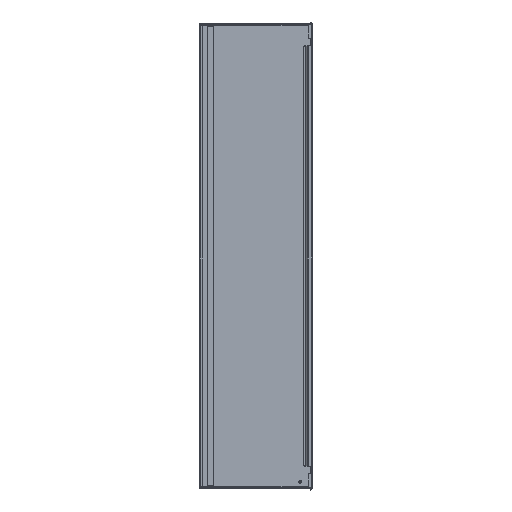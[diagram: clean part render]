
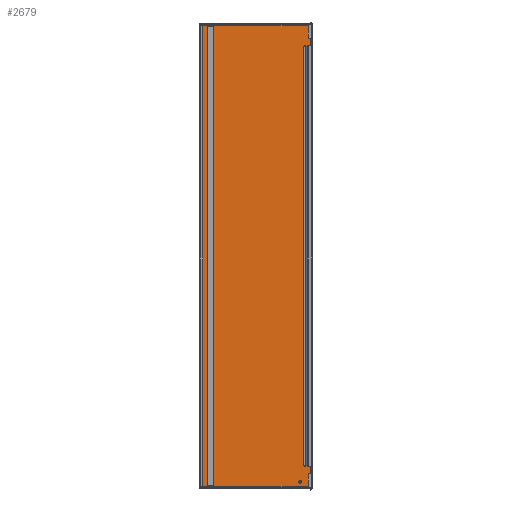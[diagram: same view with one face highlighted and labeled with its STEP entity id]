
A CAD part, top view. The second image highlights one B-rep face of the part: STEP entity #2679.
In plain terms, the highlighted planar face has unit normal (0, 0, 1).
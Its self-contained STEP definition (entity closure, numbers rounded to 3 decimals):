
#607 = EDGE_LOOP ( 'NONE', ( #1963, #1965, #1964, #1966 ) ) ;
#608 = EDGE_LOOP ( 'NONE', ( #1967, #1969, #1968, #1970, #1971, #1972 ) ) ;
#609 = EDGE_LOOP ( 'NONE', ( #1974, #1975 ) ) ;
#610 = EDGE_LOOP ( 'NONE', ( #1973, #1977, #1976, #1978 ) ) ;
#758 = VECTOR ( 'NONE', #4132, 1000. ) ;
#931 = VECTOR ( 'NONE', #4129, 1000. ) ;
#952 = VECTOR ( 'NONE', #4126, 1000. ) ;
#962 = VECTOR ( 'NONE', #4123, 1000. ) ;
#1258 = DIRECTION ( 'NONE',  ( 1., 0., 0. ) ) ;
#1259 = DIRECTION ( 'NONE',  ( 0., 0., 1. ) ) ;
#1260 = CARTESIAN_POINT ( 'NONE',  ( 0., 0., -12. ) ) ;
#1261 = PLANE ( 'NONE',  #2333 ) ;
#1525 = CARTESIAN_POINT ( 'NONE',  ( -224.6, -1056.75, -12. ) ) ;
#1526 = CARTESIAN_POINT ( 'NONE',  ( -195.5, -1056.75, -12. ) ) ;
#1527 = CARTESIAN_POINT ( 'NONE',  ( -224.6, 1056.75, -12. ) ) ;
#1528 = CARTESIAN_POINT ( 'NONE',  ( -195.5, 1056.75, -12. ) ) ;
#1529 = CARTESIAN_POINT ( 'NONE',  ( 224.621, 965.75, -12. ) ) ;
#1530 = CARTESIAN_POINT ( 'NONE',  ( 220.121, 961.25, -12. ) ) ;
#1531 = CARTESIAN_POINT ( 'NONE',  ( 220.121, -961.25, -12. ) ) ;
#1532 = CARTESIAN_POINT ( 'NONE',  ( 224.621, -965.75, -12. ) ) ;
#1533 = CARTESIAN_POINT ( 'NONE',  ( 226.879, 965.75, -12. ) ) ;
#1534 = CARTESIAN_POINT ( 'NONE',  ( 226.879, -965.75, -12. ) ) ;
#1535 = CARTESIAN_POINT ( 'NONE',  ( -256., -1063.75, -12. ) ) ;
#1536 = CARTESIAN_POINT ( 'NONE',  ( -256., 1063.75, -12. ) ) ;
#1537 = CARTESIAN_POINT ( 'NONE',  ( 256., -1063.75, -12. ) ) ;
#1538 = CARTESIAN_POINT ( 'NONE',  ( 256., 1063.75, -12. ) ) ;
#1551 = CARTESIAN_POINT ( 'NONE',  ( 204.25, -1036.75, -12. ) ) ;
#1552 = CARTESIAN_POINT ( 'NONE',  ( 203.75, -1036.75, -12. ) ) ;
#1648 = VERTEX_POINT ( 'NONE', #1552 ) ;
#1649 = VERTEX_POINT ( 'NONE', #1551 ) ;
#1662 = VERTEX_POINT ( 'NONE', #1538 ) ;
#1663 = VERTEX_POINT ( 'NONE', #1537 ) ;
#1664 = VERTEX_POINT ( 'NONE', #1536 ) ;
#1665 = VERTEX_POINT ( 'NONE', #1535 ) ;
#1666 = VERTEX_POINT ( 'NONE', #1534 ) ;
#1667 = VERTEX_POINT ( 'NONE', #1533 ) ;
#1668 = VERTEX_POINT ( 'NONE', #1532 ) ;
#1669 = VERTEX_POINT ( 'NONE', #1531 ) ;
#1670 = VERTEX_POINT ( 'NONE', #1530 ) ;
#1671 = VERTEX_POINT ( 'NONE', #1529 ) ;
#1672 = VERTEX_POINT ( 'NONE', #1528 ) ;
#1673 = VERTEX_POINT ( 'NONE', #1527 ) ;
#1674 = VERTEX_POINT ( 'NONE', #1526 ) ;
#1675 = VERTEX_POINT ( 'NONE', #1525 ) ;
#1963 = ORIENTED_EDGE ( 'NONE', *, *, #2830, .F. ) ;
#1964 = ORIENTED_EDGE ( 'NONE', *, *, #2831, .F. ) ;
#1965 = ORIENTED_EDGE ( 'NONE', *, *, #2829, .F. ) ;
#1966 = ORIENTED_EDGE ( 'NONE', *, *, #2833, .F. ) ;
#1967 = ORIENTED_EDGE ( 'NONE', *, *, #2834, .F. ) ;
#1968 = ORIENTED_EDGE ( 'NONE', *, *, #2835, .T. ) ;
#1969 = ORIENTED_EDGE ( 'NONE', *, *, #2832, .T. ) ;
#1970 = ORIENTED_EDGE ( 'NONE', *, *, #2836, .T. ) ;
#1971 = ORIENTED_EDGE ( 'NONE', *, *, #2837, .T. ) ;
#1972 = ORIENTED_EDGE ( 'NONE', *, *, #2838, .F. ) ;
#1973 = ORIENTED_EDGE ( 'NONE', *, *, #2841, .F. ) ;
#1974 = ORIENTED_EDGE ( 'NONE', *, *, #2839, .F. ) ;
#1975 = ORIENTED_EDGE ( 'NONE', *, *, #2813, .F. ) ;
#1976 = ORIENTED_EDGE ( 'NONE', *, *, #2842, .F. ) ;
#1977 = ORIENTED_EDGE ( 'NONE', *, *, #2840, .F. ) ;
#1978 = ORIENTED_EDGE ( 'NONE', *, *, #2843, .F. ) ;
#2074 = VECTOR ( 'NONE', #4150, 1000. ) ;
#2075 = AXIS2_PLACEMENT_3D ( 'NONE', #4171, #4149, #4148 ) ;
#2076 = VECTOR ( 'NONE', #4153, 1000. ) ;
#2077 = VECTOR ( 'NONE', #4156, 1000. ) ;
#2078 = VECTOR ( 'NONE', #4159, 1000. ) ;
#2079 = VECTOR ( 'NONE', #4162, 1000. ) ;
#2080 = VECTOR ( 'NONE', #4165, 1000. ) ;
#2083 = AXIS2_PLACEMENT_3D ( 'NONE', #4147, #4143, #4142 ) ;
#2097 = AXIS2_PLACEMENT_3D ( 'NONE', #4216, #4215, #4214 ) ;
#2327 = FACE_BOUND ( 'NONE', #610, .T. ) ;
#2329 = FACE_BOUND ( 'NONE', #609, .T. ) ;
#2331 = FACE_BOUND ( 'NONE', #608, .T. ) ;
#2333 = AXIS2_PLACEMENT_3D ( 'NONE', #1260, #1259, #1258 ) ;
#2336 = FACE_OUTER_BOUND ( 'NONE', #607, .T. ) ;
#2574 = CIRCLE ( 'NONE', #3488, 0.25 ) ;
#2575 = CIRCLE ( 'NONE', #2083, 4.5 ) ;
#2576 = CIRCLE ( 'NONE', #2075, 4.5 ) ;
#2583 = CIRCLE ( 'NONE', #2097, 0.25 ) ;
#2679 = ADVANCED_FACE ( 'NONE', ( #2336, #2331, #2329, #2327 ), #1261, .T. ) ;
#2813 = EDGE_CURVE ( 'NONE', #1648, #1649, #2583, .T. ) ;
#2829 = EDGE_CURVE ( 'NONE', #1664, #1662, #4167, .T. ) ;
#2830 = EDGE_CURVE ( 'NONE', #1662, #1663, #4164, .T. ) ;
#2831 = EDGE_CURVE ( 'NONE', #1665, #1664, #4161, .T. ) ;
#2832 = EDGE_CURVE ( 'NONE', #1666, #1668, #4158, .T. ) ;
#2833 = EDGE_CURVE ( 'NONE', #1663, #1665, #4155, .T. ) ;
#2834 = EDGE_CURVE ( 'NONE', #1666, #1667, #4152, .T. ) ;
#2835 = EDGE_CURVE ( 'NONE', #1668, #1669, #2576, .T. ) ;
#2836 = EDGE_CURVE ( 'NONE', #1669, #1670, #4146, .T. ) ;
#2837 = EDGE_CURVE ( 'NONE', #1670, #1671, #2575, .T. ) ;
#2838 = EDGE_CURVE ( 'NONE', #1667, #1671, #4140, .T. ) ;
#2839 = EDGE_CURVE ( 'NONE', #1649, #1648, #2574, .T. ) ;
#2840 = EDGE_CURVE ( 'NONE', #1674, #1672, #4134, .T. ) ;
#2841 = EDGE_CURVE ( 'NONE', #1672, #1673, #4131, .T. ) ;
#2842 = EDGE_CURVE ( 'NONE', #1675, #1674, #4128, .T. ) ;
#2843 = EDGE_CURVE ( 'NONE', #1673, #1675, #4125, .T. ) ;
#3487 = VECTOR ( 'NONE', #4138, 1000. ) ;
#3488 = AXIS2_PLACEMENT_3D ( 'NONE', #4141, #4137, #4136 ) ;
#3489 = VECTOR ( 'NONE', #4144, 1000. ) ;
#4123 = DIRECTION ( 'NONE',  ( 0., -1., 0. ) ) ;
#4124 = CARTESIAN_POINT ( 'NONE',  ( -224.6, -1056.75, -12. ) ) ;
#4125 = LINE ( 'NONE', #4124, #962 ) ;
#4126 = DIRECTION ( 'NONE',  ( 1., 0., 0. ) ) ;
#4127 = CARTESIAN_POINT ( 'NONE',  ( -224.6, -1056.75, -12. ) ) ;
#4128 = LINE ( 'NONE', #4127, #952 ) ;
#4129 = DIRECTION ( 'NONE',  ( -1., 0., 0. ) ) ;
#4130 = CARTESIAN_POINT ( 'NONE',  ( -224.6, 1056.75, -12. ) ) ;
#4131 = LINE ( 'NONE', #4130, #931 ) ;
#4132 = DIRECTION ( 'NONE',  ( 0., 1., 0. ) ) ;
#4133 = CARTESIAN_POINT ( 'NONE',  ( -195.5, -1056.75, -12. ) ) ;
#4134 = LINE ( 'NONE', #4133, #758 ) ;
#4136 = DIRECTION ( 'NONE',  ( 1., 0., 0. ) ) ;
#4137 = DIRECTION ( 'NONE',  ( 0., 0., 1. ) ) ;
#4138 = DIRECTION ( 'NONE',  ( -1., 0., 0. ) ) ;
#4139 = CARTESIAN_POINT ( 'NONE',  ( 226.879, 965.75, -12. ) ) ;
#4140 = LINE ( 'NONE', #4139, #3487 ) ;
#4141 = CARTESIAN_POINT ( 'NONE',  ( 204., -1036.75, -12. ) ) ;
#4142 = DIRECTION ( 'NONE',  ( 1., 0., 0. ) ) ;
#4143 = DIRECTION ( 'NONE',  ( 0., 0., -1. ) ) ;
#4144 = DIRECTION ( 'NONE',  ( 0., 1., 0. ) ) ;
#4145 = CARTESIAN_POINT ( 'NONE',  ( 220.121, -988.171, -12. ) ) ;
#4146 = LINE ( 'NONE', #4145, #3489 ) ;
#4147 = CARTESIAN_POINT ( 'NONE',  ( 224.621, 961.25, -12. ) ) ;
#4148 = DIRECTION ( 'NONE',  ( 1., 0., 0. ) ) ;
#4149 = DIRECTION ( 'NONE',  ( 0., 0., -1. ) ) ;
#4150 = DIRECTION ( 'NONE',  ( 0., 1., 0. ) ) ;
#4151 = CARTESIAN_POINT ( 'NONE',  ( 226.879, -988.171, -12. ) ) ;
#4152 = LINE ( 'NONE', #4151, #2074 ) ;
#4153 = DIRECTION ( 'NONE',  ( -1., 0., 0. ) ) ;
#4154 = CARTESIAN_POINT ( 'NONE',  ( 0., -1063.75, -12. ) ) ;
#4155 = LINE ( 'NONE', #4154, #2076 ) ;
#4156 = DIRECTION ( 'NONE',  ( -1., 0., 0. ) ) ;
#4157 = CARTESIAN_POINT ( 'NONE',  ( 226.879, -965.75, -12. ) ) ;
#4158 = LINE ( 'NONE', #4157, #2077 ) ;
#4159 = DIRECTION ( 'NONE',  ( 0., 1., 0. ) ) ;
#4160 = CARTESIAN_POINT ( 'NONE',  ( -256., 0., -12. ) ) ;
#4161 = LINE ( 'NONE', #4160, #2078 ) ;
#4162 = DIRECTION ( 'NONE',  ( 0., -1., 0. ) ) ;
#4163 = CARTESIAN_POINT ( 'NONE',  ( 256., 0., -12. ) ) ;
#4164 = LINE ( 'NONE', #4163, #2079 ) ;
#4165 = DIRECTION ( 'NONE',  ( 1., 0., 0. ) ) ;
#4166 = CARTESIAN_POINT ( 'NONE',  ( 0., 1063.75, -12. ) ) ;
#4167 = LINE ( 'NONE', #4166, #2080 ) ;
#4171 = CARTESIAN_POINT ( 'NONE',  ( 224.621, -961.25, -12. ) ) ;
#4214 = DIRECTION ( 'NONE',  ( 1., 0., 0. ) ) ;
#4215 = DIRECTION ( 'NONE',  ( 0., 0., 1. ) ) ;
#4216 = CARTESIAN_POINT ( 'NONE',  ( 204., -1036.75, -12. ) ) ;
